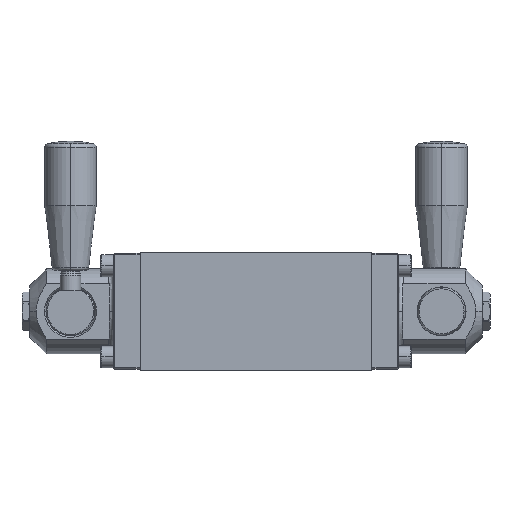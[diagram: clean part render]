
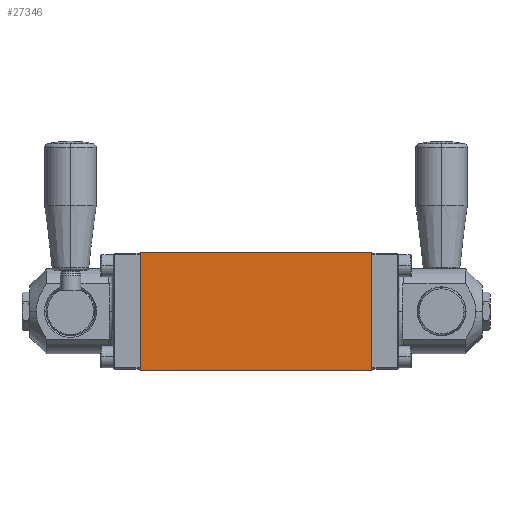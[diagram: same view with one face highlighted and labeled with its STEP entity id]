
A CAD part, top view. The second image highlights one B-rep face of the part: STEP entity #27346.
In plain terms, the highlighted planar face has unit normal (0, 0, 1).
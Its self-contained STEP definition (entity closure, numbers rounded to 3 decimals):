
#211 = EDGE_CURVE ( 'NONE', #7964, #14800, #41659, .T. ) ;
#3717 = VERTEX_POINT ( 'NONE', #29517 ) ;
#4813 = VECTOR ( 'NONE', #52131, 1000. ) ;
#5173 = CARTESIAN_POINT ( 'NONE',  ( 90., 23., 23. ) ) ;
#7831 = ORIENTED_EDGE ( 'NONE', *, *, #36394, .T. ) ;
#7840 = DIRECTION ( 'NONE',  ( 0., 0., -1. ) ) ;
#7964 = VERTEX_POINT ( 'NONE', #38255 ) ;
#9767 = EDGE_CURVE ( 'NONE', #3717, #14800, #50159, .T. ) ;
#10441 = DIRECTION ( 'NONE',  ( 0., -1., 0. ) ) ;
#14209 = ORIENTED_EDGE ( 'NONE', *, *, #46059, .F. ) ;
#14800 = VERTEX_POINT ( 'NONE', #18221 ) ;
#15767 = PLANE ( 'NONE',  #42872 ) ;
#18221 = CARTESIAN_POINT ( 'NONE',  ( 0., -23., 23. ) ) ;
#18845 = CARTESIAN_POINT ( 'NONE',  ( 0., -23., 23. ) ) ;
#21774 = DIRECTION ( 'NONE',  ( -1., 0., 0. ) ) ;
#23268 = CARTESIAN_POINT ( 'NONE',  ( 90., -23., 23. ) ) ;
#23466 = CARTESIAN_POINT ( 'NONE',  ( 90., 23., 23. ) ) ;
#24632 = LINE ( 'NONE', #23268, #4813 ) ;
#26853 = VERTEX_POINT ( 'NONE', #23466 ) ;
#27346 = ADVANCED_FACE ( 'NONE', ( #35838 ), #15767, .F. ) ;
#28520 = VECTOR ( 'NONE', #10441, 1000. ) ;
#29517 = CARTESIAN_POINT ( 'NONE',  ( 0., 23., 23. ) ) ;
#30150 = ORIENTED_EDGE ( 'NONE', *, *, #211, .F. ) ;
#34971 = ORIENTED_EDGE ( 'NONE', *, *, #9767, .T. ) ;
#35655 = CARTESIAN_POINT ( 'NONE',  ( 90., -23., 23. ) ) ;
#35838 = FACE_OUTER_BOUND ( 'NONE', #41830, .T. ) ;
#35964 = VECTOR ( 'NONE', #21774, 1000. ) ;
#36252 = DIRECTION ( 'NONE',  ( -1., 0., 0. ) ) ;
#36394 = EDGE_CURVE ( 'NONE', #26853, #3717, #41039, .T. ) ;
#38255 = CARTESIAN_POINT ( 'NONE',  ( 90., -23., 23. ) ) ;
#40084 = DIRECTION ( 'NONE',  ( -1., 0., 0. ) ) ;
#41039 = LINE ( 'NONE', #5173, #35964 ) ;
#41659 = LINE ( 'NONE', #35655, #44196 ) ;
#41830 = EDGE_LOOP ( 'NONE', ( #34971, #30150, #14209, #7831 ) ) ;
#42872 = AXIS2_PLACEMENT_3D ( 'NONE', #52799, #7840, #36252 ) ;
#44196 = VECTOR ( 'NONE', #40084, 1000. ) ;
#46059 = EDGE_CURVE ( 'NONE', #26853, #7964, #24632, .T. ) ;
#50159 = LINE ( 'NONE', #18845, #28520 ) ;
#52131 = DIRECTION ( 'NONE',  ( 0., -1., 0. ) ) ;
#52799 = CARTESIAN_POINT ( 'NONE',  ( 90., -23., 23. ) ) ;
